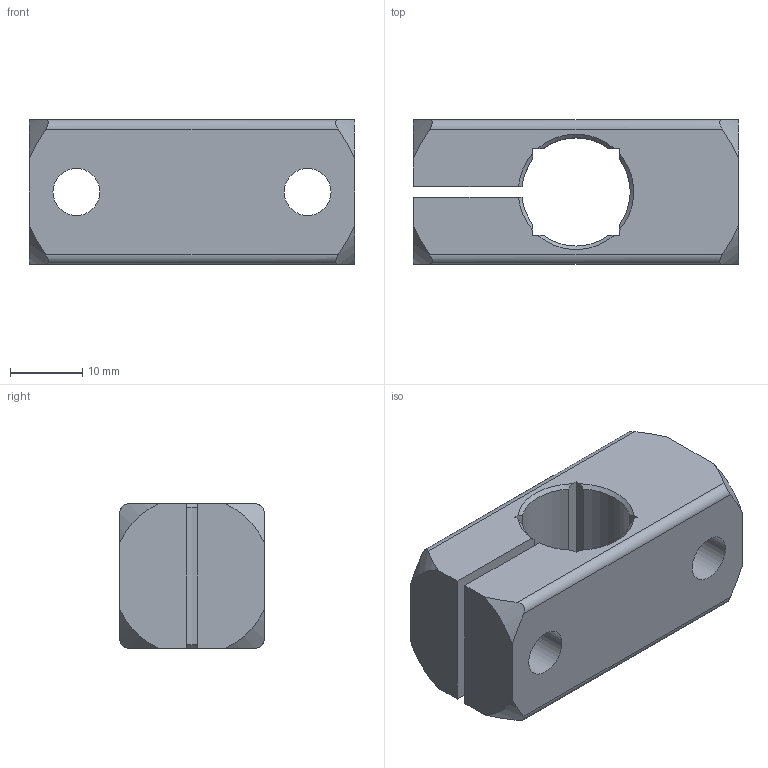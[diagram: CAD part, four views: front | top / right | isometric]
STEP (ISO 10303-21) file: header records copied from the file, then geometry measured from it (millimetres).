
FILE_DESCRIPTION( ( 'STEP AP203' ), '1' );
FILE_NAME( 'C:/Temp/Ganter_Step_05_03_2020/data/3_7/gn_477/Clamp mounting GN 477-B15-ELS.stp', '2020-03-12T14:46:06', ( 'License CC BY-ND 4.0' ), ( 'CADENAS' ), ' ', 'PARTsolutions', ' ' );
FILE_SCHEMA( ( 'CONFIG_CONTROL_DESIGN' ) );
Length unit declared in the file: millimetre
Products named in the file (1): _Clamp mounting GN 477-B15-ELS
Bounding box: 45 x 20 x 20 mm (x, y, z)
Volume: 11858.5 mm3; surface area: 6084 mm2
Topology: 1 solids, 1 shells, 51 faces, 143 edges, 96 vertices
Faces by surface type: plane 19, cone 18, cylinder 14
Full cylindrical faces by diameter (mm): 6.5 x3, 10.5 x2
Entity records: 1804 total; most frequent: CARTESIAN_POINT 510, ORIENTED_EDGE 272, DIRECTION 234, EDGE_CURVE 136, VERTEX_POINT 94, AXIS2_PLACEMENT_3D 90, EDGE_LOOP 64, FACE_OUTER_BOUND 56
